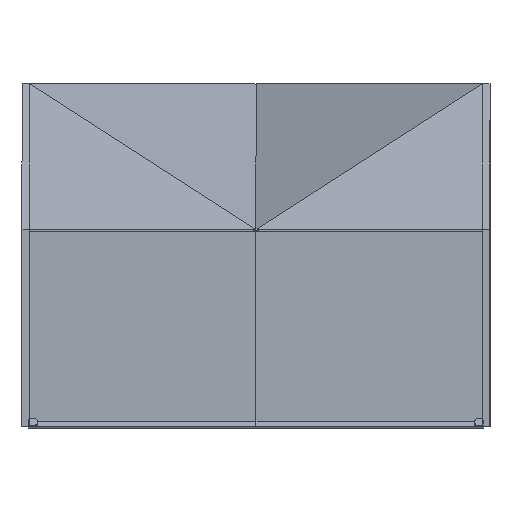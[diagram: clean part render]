
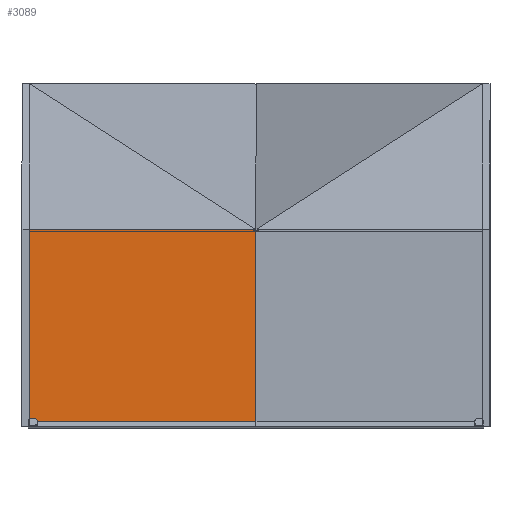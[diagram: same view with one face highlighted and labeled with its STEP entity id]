
A CAD part, left-side view. The second image highlights one B-rep face of the part: STEP entity #3089.
In plain terms, the highlighted planar face has unit normal (-1, 0, 0).
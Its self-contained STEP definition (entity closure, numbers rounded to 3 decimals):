
#342=FACE_OUTER_BOUND('',#545,.T.);
#545=EDGE_LOOP('',(#2580,#2581,#2582,#2583));
#817=LINE('',#5638,#1146);
#821=LINE('',#5646,#1150);
#824=LINE('',#5652,#1153);
#827=LINE('',#5657,#1156);
#1146=VECTOR('',#4040,10.);
#1150=VECTOR('',#4046,10.);
#1153=VECTOR('',#4051,10.);
#1156=VECTOR('',#4056,10.);
#1463=VERTEX_POINT('',#5636);
#1464=VERTEX_POINT('',#5637);
#1467=VERTEX_POINT('',#5645);
#1469=VERTEX_POINT('',#5651);
#1841=EDGE_CURVE('',#1463,#1464,#817,.T.);
#1845=EDGE_CURVE('',#1464,#1467,#821,.T.);
#1848=EDGE_CURVE('',#1467,#1469,#824,.T.);
#1851=EDGE_CURVE('',#1463,#1469,#827,.T.);
#2580=ORIENTED_EDGE('',*,*,#1851,.F.);
#2581=ORIENTED_EDGE('',*,*,#1841,.T.);
#2582=ORIENTED_EDGE('',*,*,#1845,.T.);
#2583=ORIENTED_EDGE('',*,*,#1848,.T.);
#2892=PLANE('',#3382);
#3089=ADVANCED_FACE('',(#342),#2892,.F.);
#3382=AXIS2_PLACEMENT_3D('',#5660,#4060,#4061);
#4040=DIRECTION('',(0.,0.,-1.));
#4046=DIRECTION('',(0.,-1.,0.));
#4051=DIRECTION('',(0.,0.,1.));
#4056=DIRECTION('',(0.,-1.,0.));
#4060=DIRECTION('center_axis',(1.,0.,0.));
#4061=DIRECTION('ref_axis',(0.,1.,0.));
#5636=CARTESIAN_POINT('',(-159.277,185.133,-43.436));
#5637=CARTESIAN_POINT('',(-159.277,185.133,-123.436));
#5638=CARTESIAN_POINT('',(-159.277,185.133,-43.436));
#5645=CARTESIAN_POINT('',(-159.277,93.133,-123.436));
#5646=CARTESIAN_POINT('',(-159.277,185.133,-123.436));
#5651=CARTESIAN_POINT('',(-159.277,93.133,-43.436));
#5652=CARTESIAN_POINT('',(-159.277,93.133,-123.436));
#5657=CARTESIAN_POINT('',(-159.277,185.133,-43.436));
#5660=CARTESIAN_POINT('Origin',(-159.277,139.133,-83.436));
